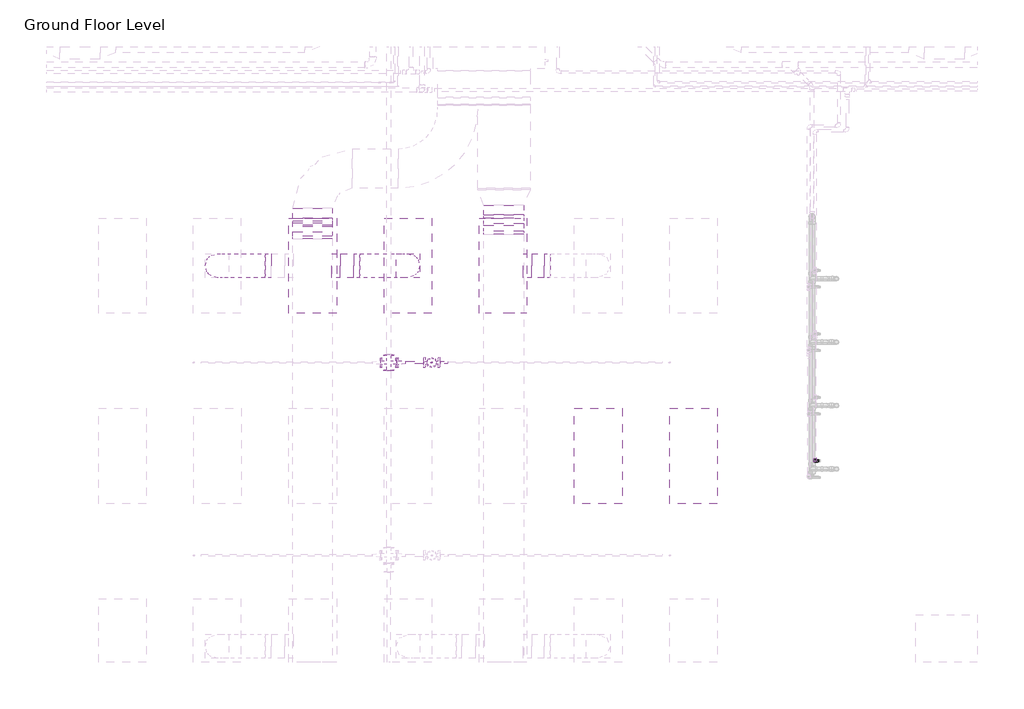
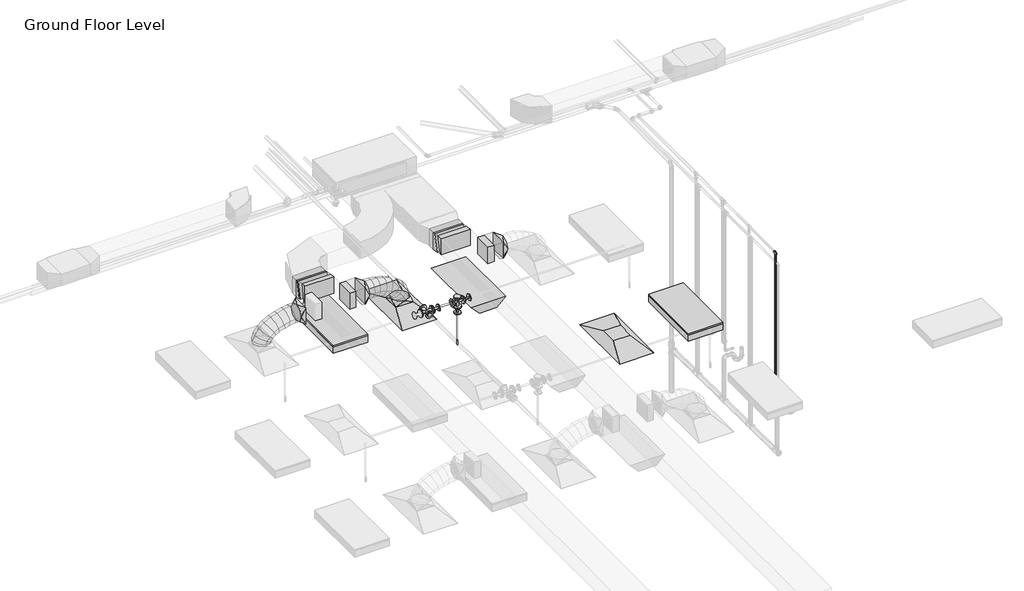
# One storey, part 49 of 74: 11 duct fittings, 8 duct segments, 7 pipe fittings, 4 pipe segments, 3 light fixtures, 2 air terminals, 1 fire suppression terminal.
"""IFC4 building model written with IfcOpenShell, lengths in millimetres."""

from ifc_helpers import new_model, si_unit, point, frame, frame_2d, origin, place, context, project, spatial, polyline, circle_curve, ellipse_curve, trimmed, segment, composite_curve, outline, extrude, transform, mapped, element, save
from ifc_brep_helpers import plane_surface, cylinder_surface, advanced_brep
from components import m_return_diffuser_1200x600_1200_x_600_face_300_x_300_d1983ef6, m_rectangular_elbow_radius_1_w_f78a0081, m_rectangular_elbow_radius_1_w_1a1d0e92, m_rectangular_takeoff_standard_cb0ccb98, m_rectangular_transition_angle_45_degree_8d40617b, m_rectangular_to_round_transition_angle_45_degree_641efff0, m_sprinkler_dry_pendent_hosted_15_mm_dry_pendent_9bda8e11, m_emergency_recessed_lighting_fixture_600x1200_277_5b10b25d, m_troffer_light_parabolic_rectangular1_0600x1200mm_4_lamp_86473d4a, m_cross_flanged_cs_class_150_standard_fc817054, m_reducer_flanged_cs_class_150_standard_ccf252ad, m_reducer_flanged_cs_class_150_standard_d42b2106, m_reducer_flanged_cs_class_150_standard_8338f9e4, m_tee_round_base_flanged_cs_class_150_standard_7e5987a1, standard_b266ab3f

model = new_model("IFC4")

# Units and contexts
model_context = context("Model", 3, world=origin())
ifc_project = project(units=[si_unit("LENGTHUNIT", "METRE", prefix="MILLI")], contexts=[model_context])

# Site, building, storey
site = spatial("IfcSite", under=ifc_project)
building = spatial("IfcBuilding", under=site)
storey = spatial("IfcBuildingStorey", under=building, Name="Ground Floor Level", Elevation=900.0)

# Air terminals
placement = place(None, origin())
m_return_diffuser_1200x600_1200_x_600_face_300_x_300_shape = m_return_diffuser_1200x600_1200_x_600_face_300_x_300_d1983ef6(model_context)
element("IfcAirTerminal", 1, ObjectType="M_Return Diffuser 1200x600 : 1200 x 600 Face 300 x 300 Connection", at=placement, inside=storey, context=model_context, shape_type="MappedRepresentation", body=[
    mapped(m_return_diffuser_1200x600_1200_x_600_face_300_x_300_shape, transform((-3337.2327605, 8835.2153534, 3650.0), x_axis=(0.0, 1.0, 0.0), y_axis=(-1.0, 0.0, 0.0), z_axis=(0.0, 0.0, 1.0))),
])
element("IfcAirTerminal", 2, ObjectType="M_Supply Diffuser 1200x600 : 1200 x 600 Face 300 x 300 Connection", at=placement, inside=storey, context=model_context, shape_type="MappedRepresentation", body=[
    mapped(m_return_diffuser_1200x600_1200_x_600_face_300_x_300_shape, transform((-5737.2327605, 11235.2153534, 3650.0), x_axis=(0.0, 1.0, 0.0), y_axis=(-1.0, 0.0, 0.0), z_axis=(0.0, 0.0, 1.0))),
])

# Duct fittings
m_rectangular_elbow_radius_1_w_shape = m_rectangular_elbow_radius_1_w_f78a0081(model_context)
element("IfcDuctFitting", 3, ObjectType="M_Rectangular Elbow - Radius : 1 W", at=placement, inside=storey, context=model_context, shape_type="MappedRepresentation", body=[
    mapped(m_rectangular_elbow_radius_1_w_shape, transform((-4528.6910789, 11671.1593756, 4149.9980527), x_axis=(0.0, 0.999999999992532, -3.864729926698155e-06), y_axis=(0.0, -3.864729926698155e-06, -0.999999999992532), z_axis=(-1.0, 0.0, 0.0))),
])
element("IfcDuctFitting", 4, ObjectType="M_Rectangular Elbow - Radius : 1 W", at=placement, inside=storey, context=model_context, shape_type="MappedRepresentation", body=[
    mapped(m_rectangular_elbow_radius_1_w_shape, transform((-4528.6910789, 11835.9032855, 4107.134916), x_axis=(0.0, -0.999999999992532, 3.864729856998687e-06), y_axis=(0.0, 3.864729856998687e-06, 0.999999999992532), z_axis=(-1.0, 0.0, 0.0))),
])
m_rectangular_elbow_radius_1_w_2_shape = m_rectangular_elbow_radius_1_w_1a1d0e92(model_context)
element("IfcDuctFitting", 5, ObjectType="M_Rectangular Elbow - Radius : 1 W", at=placement, inside=storey, context=model_context, shape_type="MappedRepresentation", body=[
    mapped(m_rectangular_elbow_radius_1_w_2_shape, transform((-6939.6910789, 11605.2153534, 4150.0), x_axis=(0.0, 1.0, 0.0), y_axis=(-4.8368849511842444e-06, 0.0, -0.9999999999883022), z_axis=(-0.9999999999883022, 0.0, 4.8368849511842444e-06))),
])
element("IfcDuctFitting", 6, ObjectType="M_Rectangular Elbow - Radius : 1 W", at=placement, inside=storey, context=model_context, shape_type="MappedRepresentation", body=[
    mapped(m_rectangular_elbow_radius_1_w_2_shape, transform((-6939.6912607, 11801.8710367, 4107.1399598), x_axis=(0.0, -1.0, 0.0), y_axis=(4.836885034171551e-06, 0.0, 0.9999999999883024), z_axis=(-0.9999999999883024, 0.0, 4.836885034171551e-06))),
])
m_rectangular_takeoff_standard_shape = m_rectangular_takeoff_standard_cb0ccb98(model_context)
element("IfcDuctFitting", 7, ObjectType="M_Rectangular Takeoff : Standard", at=placement, inside=storey, context=model_context, shape_type="MappedRepresentation", body=[
    mapped(m_rectangular_takeoff_standard_shape, transform((-4278.6910789, 11235.2153534, 4150.0), x_axis=(1.0, 0.0, 0.0), y_axis=(0.0, -1.0, 0.0), z_axis=(0.0, 0.0, -1.0))),
])
element("IfcDuctFitting", 8, ObjectType="M_Rectangular Takeoff : Standard", at=placement, inside=storey, context=model_context, shape_type="MappedRepresentation", body=[
    mapped(m_rectangular_takeoff_standard_shape, transform((-6689.6910789, 11235.2153534, 4150.0), x_axis=(1.0, 0.0, 0.0), y_axis=(0.0, -1.0, 0.0), z_axis=(0.0, 0.0, -1.0))),
])
m_rectangular_transition_angle_45_degree_shape = m_rectangular_transition_angle_45_degree_8d40617b(model_context)
element("IfcDuctFitting", 9, ObjectType="M_Rectangular Transition - Angle : 45 Degree", at=placement, inside=storey, context=model_context, shape_type="MappedRepresentation", body=[
    mapped(m_rectangular_transition_angle_45_degree_shape, transform((-6939.6912351, 11774.1025359, 4112.4195134), x_axis=(9.034404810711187e-07, -0.9824014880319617, 0.18678146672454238), y_axis=(0.9999999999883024, 0.0, -4.836885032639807e-06), z_axis=(4.751763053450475e-06, 0.1867814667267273, 0.9824014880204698))),
])
m_rectangular_to_round_transition_angle_45_degree_shape = m_rectangular_to_round_transition_angle_45_degree_641efff0(model_context)
element("IfcDuctFitting", 10, ObjectType="M_Rectangular to Round Transition - Angle : 45 Degree", at=placement, inside=storey, context=model_context, shape_type="MappedRepresentation", body=[
    mapped(m_rectangular_to_round_transition_angle_45_degree_shape, transform((-7461.2487616, 11235.2153534, 4150.0), x_axis=(-1.0, 0.0, 0.0), y_axis=(0.0, -1.0, 0.0), z_axis=(0.0, 0.0, 1.0))),
])
element("IfcDuctFitting", 11, ObjectType="M_Rectangular to Round Transition - Angle : 45 Degree", at=placement, inside=storey, context=model_context, shape_type="MappedRepresentation", body=[
    mapped(m_rectangular_to_round_transition_angle_45_degree_shape, transform((-5737.2327605, 11235.2153534, 3751.6), x_axis=(0.0, 0.0, 1.0), y_axis=(-1.0, 0.0, 0.0), z_axis=(0.0, -1.0, 0.0))),
])
element("IfcDuctFitting", 12, ObjectType="M_Rectangular to Round Transition - Angle : 45 Degree", at=placement, inside=storey, context=model_context, shape_type="MappedRepresentation", body=[
    mapped(m_rectangular_to_round_transition_angle_45_degree_shape, transform((-6418.6686918, 11235.2153534, 4150.0), x_axis=(1.0, 0.0, 0.0), y_axis=(0.0, 1.0, 0.0), z_axis=(0.0, 0.0, 1.0))),
])
element("IfcDuctFitting", 13, ObjectType="M_Rectangular to Round Transition - Angle : 45 Degree", at=placement, inside=storey, context=model_context, shape_type="MappedRepresentation", body=[
    mapped(m_rectangular_to_round_transition_angle_45_degree_shape, transform((-4018.6725245, 11235.2153534, 4150.0), x_axis=(1.0, 0.0, 0.0), y_axis=(0.0, 1.0, 0.0), z_axis=(0.0, 0.0, 1.0))),
])

# Duct segments
element("IfcDuctSegment", 14, ObjectType="Flex - Round", at=placement, inside=storey, context=model_context, shape_type="AdvancedBrep", body=[
    advanced_brep(
    [(-7992.6846929, 11235.2153534, 3826.6), (-8142.6846929, 11085.2153534, 3826.6), (-8292.6846929, 11235.2153534, 3826.6), (-8142.6846929, 11385.2153534, 3826.6), (-7992.6846929, 11235.2153534, 3832.4838104), (-8142.6846929, 11085.2153534, 3857.3049615), (-8292.6846929, 11235.2153534, 3882.1261126), (-8142.6846929, 11385.2153534, 3857.3049615), (-7990.555208, 11235.2153534, 3838.7421096), (-8126.0232883, 11085.2153534, 3906.2708192), (-8261.4913687, 11235.2153534, 3973.7995287), (-8126.0232883, 11385.2153534, 3906.2708192), (-7968.5331802, 11235.2153534, 3871.1472855), (-8080.1452707, 11085.2153534, 3973.7798261), (-8191.7573612, 11235.2153534, 4076.4123668), (-8080.1452707, 11385.2153534, 3973.7798261), (-7928.5904556, 11235.2153534, 3903.4915826), (-8011.2099341, 11085.2153534, 4029.6013814), (-8093.8294126, 11235.2153534, 4155.7111802), (-8011.2099341, 11385.2153534, 4029.6013814), (-7865.6682729, 11235.2153534, 3936.1928758), (-7925.3765727, 11085.2153534, 4074.2098454), (-7985.0848725, 11235.2153534, 4212.226815), (-7925.3765727, 11385.2153534, 4074.2098454), (-7786.815881, 11235.2153534, 3963.8479616), (-7828.8044806, 11085.2153534, 4108.0795788), (-7870.7930803, 11235.2153534, 4252.311196), (-7828.8044806, 11385.2153534, 4108.0795788), (-7700.2438983, 11235.2153534, 3984.0509494), (-7727.652952, 11085.2153534, 4131.684942), (-7755.0620057, 11235.2153534, 4279.3189347), (-7727.652952, 11385.2153534, 4131.684942), (-7613.759715, 11235.2153534, 3996.0504424), (-7628.081281, 11085.2153534, 4145.5002956), (-7642.4028469, 11235.2153534, 4294.9501488), (-7628.081281, 11385.2153534, 4145.5002956), (-7539.5984134, 11235.2153534, 4000.0), (-7543.5898089, 11085.2153534, 4150.0), (-7547.5812043, 11235.2153534, 4300.0), (-7543.5898089, 11385.2153534, 4150.0), (-7536.2487616, 11235.2153534, 4000.0), (-7536.2487616, 11385.2153534, 4150.0), (-7536.2487616, 11235.2153534, 4300.0), (-7536.2487616, 11085.2153534, 4150.0)],
    [
        (0, 1, circle_curve(frame((-8142.6846929, 11235.2153534, 3826.6), z_axis=(0.0, 0.0, -1.0), x_axis=(1.0, 0.0, 0.0)), 150.0)),
        (1, 2, circle_curve(frame((-8142.6846929, 11235.2153534, 3826.6), z_axis=(0.0, 0.0, -1.0), x_axis=(1.0, 0.0, 0.0)), 150.0)),
        (2, 3, circle_curve(frame((-8142.6846929, 11235.2153534, 3826.6), z_axis=(0.0, 0.0, -1.0), x_axis=(1.0, 0.0, 0.0)), 150.0)),
        (3, 0, circle_curve(frame((-8142.6846929, 11235.2153534, 3826.6), z_axis=(0.0, 0.0, -1.0), x_axis=(1.0, 0.0, 0.0)), 150.0)),
        (0, 4),
        (4, 5, ellipse_curve(frame((-8142.6846929, 11235.2153534, 3857.3049615), z_axis=(-0.1632543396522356, 0.0, -0.9865840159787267), x_axis=(0.9865840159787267, 0.0, -0.16325433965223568)), 152.039763, 150.0)),
        (5, 1),
        (5, 6, ellipse_curve(frame((-8142.6846929, 11235.2153534, 3857.3049615), z_axis=(-0.1632543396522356, 0.0, -0.9865840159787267), x_axis=(0.9865840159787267, 0.0, -0.16325433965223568)), 152.039763, 150.0)),
        (6, 2),
        (6, 7, ellipse_curve(frame((-8142.6846929, 11235.2153534, 3857.3049615), z_axis=(-0.1632543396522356, 0.0, -0.9865840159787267), x_axis=(0.9865840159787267, 0.0, -0.16325433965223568)), 152.039763, 150.0)),
        (7, 3),
        (7, 4, ellipse_curve(frame((-8142.6846929, 11235.2153534, 3857.3049615), z_axis=(-0.1632543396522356, 0.0, -0.9865840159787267), x_axis=(0.9865840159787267, 0.0, -0.16325433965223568)), 152.039763, 150.0)),
        (4, 8),
        (8, 9, ellipse_curve(frame((-8126.0232883, 11235.2153534, 3906.2708192), z_axis=(-0.4461280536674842, 0.0, -0.8949691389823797), x_axis=(0.8949691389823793, 0.0, -0.4461280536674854)), 151.366203, 150.0)),
        (9, 5),
        (9, 10, ellipse_curve(frame((-8126.0232883, 11235.2153534, 3906.2708192), z_axis=(-0.4461280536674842, 0.0, -0.8949691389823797), x_axis=(0.8949691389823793, 0.0, -0.4461280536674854)), 151.366203, 150.0)),
        (10, 6),
        (10, 11, ellipse_curve(frame((-8126.0232883, 11235.2153534, 3906.2708192), z_axis=(-0.4461280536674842, 0.0, -0.8949691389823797), x_axis=(0.8949691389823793, 0.0, -0.4461280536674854)), 151.366203, 150.0)),
        (11, 7),
        (11, 8, ellipse_curve(frame((-8126.0232883, 11235.2153534, 3906.2708192), z_axis=(-0.4461280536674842, 0.0, -0.8949691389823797), x_axis=(0.8949691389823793, 0.0, -0.4461280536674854)), 151.366203, 150.0)),
        (8, 12),
        (12, 13, ellipse_curve(frame((-8080.1452707, 11235.2153534, 3973.7798261), z_axis=(-0.676875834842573, 0.0, -0.7360972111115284), x_axis=(0.7360972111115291, 0.0, -0.6768758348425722)), 151.6268352, 150.0)),
        (13, 9),
        (13, 14, ellipse_curve(frame((-8080.1452707, 11235.2153534, 3973.7798261), z_axis=(-0.676875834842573, 0.0, -0.7360972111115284), x_axis=(0.7360972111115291, 0.0, -0.6768758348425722)), 151.6268352, 150.0)),
        (14, 10),
        (14, 15, ellipse_curve(frame((-8080.1452707, 11235.2153534, 3973.7798261), z_axis=(-0.676875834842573, 0.0, -0.7360972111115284), x_axis=(0.7360972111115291, 0.0, -0.6768758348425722)), 151.6268352, 150.0)),
        (15, 11),
        (15, 12, ellipse_curve(frame((-8080.1452707, 11235.2153534, 3973.7798261), z_axis=(-0.676875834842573, 0.0, -0.7360972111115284), x_axis=(0.7360972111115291, 0.0, -0.6768758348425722)), 151.6268352, 150.0)),
        (12, 16),
        (16, 17, ellipse_curve(frame((-8011.2099341, 11235.2153534, 4029.6013814), z_axis=(-0.8364738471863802, 0.0, -0.5480068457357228), x_axis=(0.5480068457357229, 0.0, -0.8364738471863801)), 150.7635884, 150.0)),
        (17, 13),
        (17, 18, ellipse_curve(frame((-8011.2099341, 11235.2153534, 4029.6013814), z_axis=(-0.8364738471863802, 0.0, -0.5480068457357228), x_axis=(0.5480068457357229, 0.0, -0.8364738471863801)), 150.7635884, 150.0)),
        (18, 14),
        (18, 19, ellipse_curve(frame((-8011.2099341, 11235.2153534, 4029.6013814), z_axis=(-0.8364738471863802, 0.0, -0.5480068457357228), x_axis=(0.5480068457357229, 0.0, -0.8364738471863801)), 150.7635884, 150.0)),
        (19, 15),
        (19, 16, ellipse_curve(frame((-8011.2099341, 11235.2153534, 4029.6013814), z_axis=(-0.8364738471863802, 0.0, -0.5480068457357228), x_axis=(0.5480068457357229, 0.0, -0.8364738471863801)), 150.7635884, 150.0)),
        (16, 20),
        (20, 21, ellipse_curve(frame((-7925.3765727, 11235.2153534, 4074.2098454), z_axis=(-0.917795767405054, 0.0, -0.3970528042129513), x_axis=(0.3970528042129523, 0.0, -0.9177957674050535)), 150.3787384, 150.0)),
        (21, 17),
        (21, 22, ellipse_curve(frame((-7925.3765727, 11235.2153534, 4074.2098454), z_axis=(-0.917795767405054, 0.0, -0.3970528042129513), x_axis=(0.3970528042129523, 0.0, -0.9177957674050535)), 150.3787384, 150.0)),
        (22, 18),
        (22, 23, ellipse_curve(frame((-7925.3765727, 11235.2153534, 4074.2098454), z_axis=(-0.917795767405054, 0.0, -0.3970528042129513), x_axis=(0.3970528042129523, 0.0, -0.9177957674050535)), 150.3787384, 150.0)),
        (23, 19),
        (23, 20, ellipse_curve(frame((-7925.3765727, 11235.2153534, 4074.2098454), z_axis=(-0.917795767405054, 0.0, -0.3970528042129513), x_axis=(0.3970528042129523, 0.0, -0.9177957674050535)), 150.3787384, 150.0)),
        (20, 24),
        (24, 25, ellipse_curve(frame((-7828.8044806, 11235.2153534, 4108.0795788), z_axis=(-0.9601411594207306, 0.0, -0.2795155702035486), x_axis=(0.27951557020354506, 0.0, -0.9601411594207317)), 150.2191795, 150.0)),
        (25, 21),
        (25, 26, ellipse_curve(frame((-7828.8044806, 11235.2153534, 4108.0795788), z_axis=(-0.9601411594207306, 0.0, -0.2795155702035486), x_axis=(0.27951557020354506, 0.0, -0.9601411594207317)), 150.2191795, 150.0)),
        (26, 22),
        (26, 27, ellipse_curve(frame((-7828.8044806, 11235.2153534, 4108.0795788), z_axis=(-0.9601411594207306, 0.0, -0.2795155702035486), x_axis=(0.27951557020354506, 0.0, -0.9601411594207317)), 150.2191795, 150.0)),
        (27, 23),
        (27, 24, ellipse_curve(frame((-7828.8044806, 11235.2153534, 4108.0795788), z_axis=(-0.9601411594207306, 0.0, -0.2795155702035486), x_axis=(0.27951557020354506, 0.0, -0.9601411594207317)), 150.2191795, 150.0)),
        (24, 28),
        (28, 29, ellipse_curve(frame((-7727.652952, 11235.2153534, 4131.684942), z_axis=(-0.9831991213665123, 0.0, -0.1825362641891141), x_axis=(0.18253626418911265, 0.0, -0.9831991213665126)), 150.1567581, 150.0)),
        (29, 25),
        (29, 30, ellipse_curve(frame((-7727.652952, 11235.2153534, 4131.684942), z_axis=(-0.9831991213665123, 0.0, -0.1825362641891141), x_axis=(0.18253626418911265, 0.0, -0.9831991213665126)), 150.1567581, 150.0)),
        (30, 26),
        (30, 31, ellipse_curve(frame((-7727.652952, 11235.2153534, 4131.684942), z_axis=(-0.9831991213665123, 0.0, -0.1825362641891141), x_axis=(0.18253626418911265, 0.0, -0.9831991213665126)), 150.1567581, 150.0)),
        (31, 27),
        (31, 28, ellipse_curve(frame((-7727.652952, 11235.2153534, 4131.684942), z_axis=(-0.9831991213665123, 0.0, -0.1825362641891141), x_axis=(0.18253626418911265, 0.0, -0.9831991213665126)), 150.1567581, 150.0)),
        (28, 32),
        (32, 33, ellipse_curve(frame((-7628.081281, 11235.2153534, 4145.5002956), z_axis=(-0.9954398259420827, 0.0, -0.09539157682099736), x_axis=(0.09539157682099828, 0.0, -0.9954398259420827)), 150.1344926, 150.0)),
        (33, 29),
        (33, 34, ellipse_curve(frame((-7628.081281, 11235.2153534, 4145.5002956), z_axis=(-0.9954398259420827, 0.0, -0.09539157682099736), x_axis=(0.09539157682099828, 0.0, -0.9954398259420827)), 150.1344926, 150.0)),
        (34, 30),
        (34, 35, ellipse_curve(frame((-7628.081281, 11235.2153534, 4145.5002956), z_axis=(-0.9954398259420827, 0.0, -0.09539157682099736), x_axis=(0.09539157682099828, 0.0, -0.9954398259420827)), 150.1344926, 150.0)),
        (35, 31),
        (35, 32, ellipse_curve(frame((-7628.081281, 11235.2153534, 4145.5002956), z_axis=(-0.9954398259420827, 0.0, -0.09539157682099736), x_axis=(0.09539157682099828, 0.0, -0.9954398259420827)), 150.1344926, 150.0)),
        (32, 36),
        (36, 37, ellipse_curve(frame((-7543.5898089, 11235.2153534, 4150.0), z_axis=(-0.9996461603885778, 0.0, -0.026599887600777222), x_axis=(0.026599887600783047, 0.0, -0.9996461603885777)), 150.0530947, 150.0)),
        (37, 33),
        (37, 38, ellipse_curve(frame((-7543.5898089, 11235.2153534, 4150.0), z_axis=(-0.9996461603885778, 0.0, -0.026599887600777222), x_axis=(0.026599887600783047, 0.0, -0.9996461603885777)), 150.0530947, 150.0)),
        (38, 34),
        (38, 39, ellipse_curve(frame((-7543.5898089, 11235.2153534, 4150.0), z_axis=(-0.9996461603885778, 0.0, -0.026599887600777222), x_axis=(0.026599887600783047, 0.0, -0.9996461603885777)), 150.0530947, 150.0)),
        (39, 35),
        (39, 36, ellipse_curve(frame((-7543.5898089, 11235.2153534, 4150.0), z_axis=(-0.9996461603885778, 0.0, -0.026599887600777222), x_axis=(0.026599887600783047, 0.0, -0.9996461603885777)), 150.0530947, 150.0)),
        (40, 41, circle_curve(frame((-7536.2487616, 11235.2153534, 4150.0), z_axis=(1.0, 0.0, 0.0), x_axis=(0.0, 0.0, -1.0)), 150.0)),
        (41, 42, circle_curve(frame((-7536.2487616, 11235.2153534, 4150.0), z_axis=(1.0, 0.0, 0.0), x_axis=(0.0, 0.0, -1.0)), 150.0)),
        (42, 43, circle_curve(frame((-7536.2487616, 11235.2153534, 4150.0), z_axis=(1.0, 0.0, 0.0), x_axis=(0.0, 0.0, -1.0)), 150.0)),
        (43, 40, circle_curve(frame((-7536.2487616, 11235.2153534, 4150.0), z_axis=(1.0, 0.0, 0.0), x_axis=(0.0, 0.0, -1.0)), 150.0)),
        (36, 40),
        (43, 37),
        (42, 38),
        (41, 39),
    ],
    [
        plane_surface(frame((-8142.6846929, 11085.2153534, 3826.6), z_axis=(0.0, 0.0, -1.0), x_axis=(1.0, 0.0, 0.0))),
        cylinder_surface(frame((-8142.6846929, 11235.2153534, 3826.6), z_axis=(0.0, 0.0, -1.0), x_axis=(1.0, 0.0, 0.0)), 150.0),
        cylinder_surface(frame((-8142.6846929, 11235.2153534, 3857.3049615), z_axis=(-0.32212824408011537, 0.0, -0.946696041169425), x_axis=(0.946696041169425, 0.0, -0.32212824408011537)), 150.0),
        cylinder_surface(frame((-8126.0232883, 11235.2153534, 3906.2708192), z_axis=(-0.5620745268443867, 0.0, -0.8270865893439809), x_axis=(0.8270865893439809, 0.0, -0.5620745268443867)), 150.0),
        cylinder_surface(frame((-8080.1452707, 11235.2153534, 3973.7798261), z_axis=(-0.777152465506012, 0.0, -0.6293123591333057), x_axis=(0.6293123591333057, 0.0, -0.777152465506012)), 150.0),
        cylinder_surface(frame((-8011.2099341, 11235.2153534, 4029.6013814), z_axis=(-0.887322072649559, 0.0, -0.4611502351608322), x_axis=(0.4611502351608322, 0.0, -0.887322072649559)), 150.0),
        cylinder_surface(frame((-7925.3765727, 11235.2153534, 4074.2098454), z_axis=(-0.9436464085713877, 0.0, -0.3309553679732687), x_axis=(0.3309553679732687, 0.0, -0.9436464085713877)), 150.0),
        cylinder_surface(frame((-7828.8044806, 11235.2153534, 4108.0795788), z_axis=(-0.9738340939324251, 0.0, -0.2272601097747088), x_axis=(0.2272601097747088, 0.0, -0.9738340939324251)), 150.0),
        cylinder_surface(frame((-7727.652952, 11235.2153534, 4131.684942), z_axis=(-0.9905113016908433, 0.0, -0.1374312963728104), x_axis=(0.1374312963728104, 0.0, -0.9905113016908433)), 150.0),
        cylinder_surface(frame((-7628.081281, 11235.2153534, 4145.5002956), z_axis=(-0.998584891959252, 0.0, -0.05318095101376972), x_axis=(0.05318095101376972, 0.0, -0.998584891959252)), 150.0),
        plane_surface(frame((-7536.2487616, 11235.2153534, 4000.0), z_axis=(1.0, 0.0, 0.0), x_axis=(0.0, 1.0, 0.0))),
        cylinder_surface(frame((-7543.5898089, 11235.2153534, 4150.0), z_axis=(-1.0, 0.0, 0.0), x_axis=(0.0, 0.0, -1.0)), 150.0),
    ],
    [
        (0, [[1, 2, 3, 4]]),
        (1, [[-1, 5, 6, 7]]),
        (1, [[-2, -7, 8, 9]]),
        (1, [[-3, -9, 10, 11]]),
        (1, [[-4, -11, 12, -5]]),
        (2, [[-6, 13, 14, 15]]),
        (2, [[-8, -15, 16, 17]]),
        (2, [[-10, -17, 18, 19]]),
        (2, [[-12, -19, 20, -13]]),
        (3, [[-14, 21, 22, 23]]),
        (3, [[-16, -23, 24, 25]]),
        (3, [[-18, -25, 26, 27]]),
        (3, [[-20, -27, 28, -21]]),
        (4, [[-22, 29, 30, 31]]),
        (4, [[-24, -31, 32, 33]]),
        (4, [[-26, -33, 34, 35]]),
        (4, [[-28, -35, 36, -29]]),
        (5, [[-30, 37, 38, 39]]),
        (5, [[-32, -39, 40, 41]]),
        (5, [[-34, -41, 42, 43]]),
        (5, [[-36, -43, 44, -37]]),
        (6, [[-38, 45, 46, 47]]),
        (6, [[-40, -47, 48, 49]]),
        (6, [[-42, -49, 50, 51]]),
        (6, [[-44, -51, 52, -45]]),
        (7, [[-46, 53, 54, 55]]),
        (7, [[-48, -55, 56, 57]]),
        (7, [[-50, -57, 58, 59]]),
        (7, [[-52, -59, 60, -53]]),
        (8, [[-54, 61, 62, 63]]),
        (8, [[-56, -63, 64, 65]]),
        (8, [[-58, -65, 66, 67]]),
        (8, [[-60, -67, 68, -61]]),
        (9, [[-62, 69, 70, 71]]),
        (9, [[-64, -71, 72, 73]]),
        (9, [[-66, -73, 74, 75]]),
        (9, [[-68, -75, 76, -69]]),
        (10, [[77, 78, 79, 80]]),
        (11, [[-70, 81, -80, 82]]),
        (11, [[-72, -82, -79, 83]]),
        (11, [[-74, -83, -78, 84]]),
        (11, [[-76, -84, -77, -81]]),
    ],
),
])
element("IfcDuctSegment", 15, ObjectType="Flex - Round", at=placement, inside=storey, context=model_context, shape_type="AdvancedBrep", body=[
    advanced_brep(
    [(-5587.2327605, 11235.2153534, 3826.6), (-5737.2327605, 11085.2153534, 3826.6), (-5887.2327605, 11235.2153534, 3826.6), (-5737.2327605, 11385.2153534, 3826.6), (-5587.2327605, 11235.2153534, 3882.1261126), (-5737.2327605, 11085.2153534, 3857.3049615), (-5887.2327605, 11235.2153534, 3832.4838104), (-5737.2327605, 11385.2153534, 3857.3049615), (-5618.4260847, 11235.2153534, 3973.7995287), (-5753.8941651, 11085.2153534, 3906.2708192), (-5889.3622454, 11235.2153534, 3838.7421096), (-5753.8941651, 11385.2153534, 3906.2708192), (-5688.1600922, 11235.2153534, 4076.4123668), (-5799.7721827, 11085.2153534, 3973.7798261), (-5911.3842733, 11235.2153534, 3871.1472855), (-5799.7721827, 11385.2153534, 3973.7798261), (-5786.0880408, 11235.2153534, 4155.7111802), (-5868.7075193, 11085.2153534, 4029.6013814), (-5951.3269979, 11235.2153534, 3903.4915826), (-5868.7075193, 11385.2153534, 4029.6013814), (-5894.832581, 11235.2153534, 4212.226815), (-5954.5408807, 11085.2153534, 4074.2098454), (-6014.2491805, 11235.2153534, 3936.1928758), (-5954.5408807, 11385.2153534, 4074.2098454), (-6009.1243732, 11235.2153534, 4252.311196), (-6051.1129728, 11085.2153534, 4108.0795788), (-6093.1015724, 11235.2153534, 3963.8479616), (-6051.1129728, 11385.2153534, 4108.0795788), (-6124.8554478, 11235.2153534, 4279.3189347), (-6152.2645014, 11085.2153534, 4131.684942), (-6179.6735551, 11235.2153534, 3984.0509494), (-6152.2645014, 11385.2153534, 4131.684942), (-6237.5146065, 11235.2153534, 4294.9501488), (-6251.8361725, 11085.2153534, 4145.5002956), (-6266.1577385, 11235.2153534, 3996.0504424), (-6251.8361725, 11385.2153534, 4145.5002956), (-6332.3362491, 11235.2153534, 4300.0), (-6336.3276445, 11085.2153534, 4150.0), (-6340.31904, 11235.2153534, 4000.0), (-6336.3276445, 11385.2153534, 4150.0), (-6343.6686918, 11235.2153534, 4300.0), (-6343.6686918, 11385.2153534, 4150.0), (-6343.6686918, 11235.2153534, 4000.0), (-6343.6686918, 11085.2153534, 4150.0)],
    [
        (0, 1, circle_curve(frame((-5737.2327605, 11235.2153534, 3826.6), z_axis=(0.0, 0.0, -1.0), x_axis=(1.0, 0.0, 0.0)), 150.0)),
        (1, 2, circle_curve(frame((-5737.2327605, 11235.2153534, 3826.6), z_axis=(0.0, 0.0, -1.0), x_axis=(1.0, 0.0, 0.0)), 150.0)),
        (2, 3, circle_curve(frame((-5737.2327605, 11235.2153534, 3826.6), z_axis=(0.0, 0.0, -1.0), x_axis=(1.0, 0.0, 0.0)), 150.0)),
        (3, 0, circle_curve(frame((-5737.2327605, 11235.2153534, 3826.6), z_axis=(0.0, 0.0, -1.0), x_axis=(1.0, 0.0, 0.0)), 150.0)),
        (0, 4),
        (4, 5, ellipse_curve(frame((-5737.2327605, 11235.2153534, 3857.3049615), z_axis=(0.1632543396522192, 0.0, -0.9865840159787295), x_axis=(-0.9865840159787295, 0.0, -0.16325433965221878)), 152.039763, 150.0)),
        (5, 1),
        (5, 6, ellipse_curve(frame((-5737.2327605, 11235.2153534, 3857.3049615), z_axis=(0.1632543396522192, 0.0, -0.9865840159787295), x_axis=(-0.9865840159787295, 0.0, -0.16325433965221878)), 152.039763, 150.0)),
        (6, 2),
        (6, 7, ellipse_curve(frame((-5737.2327605, 11235.2153534, 3857.3049615), z_axis=(0.1632543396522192, 0.0, -0.9865840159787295), x_axis=(-0.9865840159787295, 0.0, -0.16325433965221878)), 152.039763, 150.0)),
        (7, 3),
        (7, 4, ellipse_curve(frame((-5737.2327605, 11235.2153534, 3857.3049615), z_axis=(0.1632543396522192, 0.0, -0.9865840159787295), x_axis=(-0.9865840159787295, 0.0, -0.16325433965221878)), 152.039763, 150.0)),
        (4, 8),
        (8, 9, ellipse_curve(frame((-5753.8941651, 11235.2153534, 3906.2708192), z_axis=(0.44612805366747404, 0.0, -0.8949691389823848), x_axis=(-0.8949691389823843, 0.0, -0.44612805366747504)), 151.366203, 150.0)),
        (9, 5),
        (9, 10, ellipse_curve(frame((-5753.8941651, 11235.2153534, 3906.2708192), z_axis=(0.44612805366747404, 0.0, -0.8949691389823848), x_axis=(-0.8949691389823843, 0.0, -0.44612805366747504)), 151.366203, 150.0)),
        (10, 6),
        (10, 11, ellipse_curve(frame((-5753.8941651, 11235.2153534, 3906.2708192), z_axis=(0.44612805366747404, 0.0, -0.8949691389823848), x_axis=(-0.8949691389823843, 0.0, -0.44612805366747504)), 151.366203, 150.0)),
        (11, 7),
        (11, 8, ellipse_curve(frame((-5753.8941651, 11235.2153534, 3906.2708192), z_axis=(0.44612805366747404, 0.0, -0.8949691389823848), x_axis=(-0.8949691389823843, 0.0, -0.44612805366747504)), 151.366203, 150.0)),
        (8, 12),
        (12, 13, ellipse_curve(frame((-5799.7721827, 11235.2153534, 3973.7798261), z_axis=(0.6768758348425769, 0.0, -0.7360972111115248), x_axis=(-0.7360972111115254, 0.0, -0.6768758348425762)), 151.6268352, 150.0)),
        (13, 9),
        (13, 14, ellipse_curve(frame((-5799.7721827, 11235.2153534, 3973.7798261), z_axis=(0.6768758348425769, 0.0, -0.7360972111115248), x_axis=(-0.7360972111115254, 0.0, -0.6768758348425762)), 151.6268352, 150.0)),
        (14, 10),
        (14, 15, ellipse_curve(frame((-5799.7721827, 11235.2153534, 3973.7798261), z_axis=(0.6768758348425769, 0.0, -0.7360972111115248), x_axis=(-0.7360972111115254, 0.0, -0.6768758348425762)), 151.6268352, 150.0)),
        (15, 11),
        (15, 12, ellipse_curve(frame((-5799.7721827, 11235.2153534, 3973.7798261), z_axis=(0.6768758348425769, 0.0, -0.7360972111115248), x_axis=(-0.7360972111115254, 0.0, -0.6768758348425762)), 151.6268352, 150.0)),
        (12, 16),
        (16, 17, ellipse_curve(frame((-5868.7075193, 11235.2153534, 4029.6013814), z_axis=(0.8364738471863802, 0.0, -0.5480068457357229), x_axis=(-0.5480068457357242, 0.0, -0.8364738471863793)), 150.7635884, 150.0)),
        (17, 13),
        (17, 18, ellipse_curve(frame((-5868.7075193, 11235.2153534, 4029.6013814), z_axis=(0.8364738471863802, 0.0, -0.5480068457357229), x_axis=(-0.5480068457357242, 0.0, -0.8364738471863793)), 150.7635884, 150.0)),
        (18, 14),
        (18, 19, ellipse_curve(frame((-5868.7075193, 11235.2153534, 4029.6013814), z_axis=(0.8364738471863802, 0.0, -0.5480068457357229), x_axis=(-0.5480068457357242, 0.0, -0.8364738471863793)), 150.7635884, 150.0)),
        (19, 15),
        (19, 16, ellipse_curve(frame((-5868.7075193, 11235.2153534, 4029.6013814), z_axis=(0.8364738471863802, 0.0, -0.5480068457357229), x_axis=(-0.5480068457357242, 0.0, -0.8364738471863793)), 150.7635884, 150.0)),
        (16, 20),
        (20, 21, ellipse_curve(frame((-5954.5408807, 11235.2153534, 4074.2098454), z_axis=(0.9177957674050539, 0.0, -0.39705280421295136), x_axis=(-0.39705280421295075, 0.0, -0.9177957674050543)), 150.3787384, 150.0)),
        (21, 17),
        (21, 22, ellipse_curve(frame((-5954.5408807, 11235.2153534, 4074.2098454), z_axis=(0.9177957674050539, 0.0, -0.39705280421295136), x_axis=(-0.39705280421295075, 0.0, -0.9177957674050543)), 150.3787384, 150.0)),
        (22, 18),
        (22, 23, ellipse_curve(frame((-5954.5408807, 11235.2153534, 4074.2098454), z_axis=(0.9177957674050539, 0.0, -0.39705280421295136), x_axis=(-0.39705280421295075, 0.0, -0.9177957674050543)), 150.3787384, 150.0)),
        (23, 19),
        (23, 20, ellipse_curve(frame((-5954.5408807, 11235.2153534, 4074.2098454), z_axis=(0.9177957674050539, 0.0, -0.39705280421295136), x_axis=(-0.39705280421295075, 0.0, -0.9177957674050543)), 150.3787384, 150.0)),
        (20, 24),
        (24, 25, ellipse_curve(frame((-6051.1129728, 11235.2153534, 4108.0795788), z_axis=(0.9601411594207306, 0.0, -0.2795155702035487), x_axis=(-0.27951557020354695, 0.0, -0.9601411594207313)), 150.2191795, 150.0)),
        (25, 21),
        (25, 26, ellipse_curve(frame((-6051.1129728, 11235.2153534, 4108.0795788), z_axis=(0.9601411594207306, 0.0, -0.2795155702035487), x_axis=(-0.27951557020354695, 0.0, -0.9601411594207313)), 150.2191795, 150.0)),
        (26, 22),
        (26, 27, ellipse_curve(frame((-6051.1129728, 11235.2153534, 4108.0795788), z_axis=(0.9601411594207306, 0.0, -0.2795155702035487), x_axis=(-0.27951557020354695, 0.0, -0.9601411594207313)), 150.2191795, 150.0)),
        (27, 23),
        (27, 24, ellipse_curve(frame((-6051.1129728, 11235.2153534, 4108.0795788), z_axis=(0.9601411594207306, 0.0, -0.2795155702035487), x_axis=(-0.27951557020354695, 0.0, -0.9601411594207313)), 150.2191795, 150.0)),
        (24, 28),
        (28, 29, ellipse_curve(frame((-6152.2645014, 11235.2153534, 4131.684942), z_axis=(0.9831991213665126, 0.0, -0.1825362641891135), x_axis=(-0.1825362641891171, 0.0, -0.9831991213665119)), 150.1567581, 150.0)),
        (29, 25),
        (29, 30, ellipse_curve(frame((-6152.2645014, 11235.2153534, 4131.684942), z_axis=(0.9831991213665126, 0.0, -0.1825362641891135), x_axis=(-0.1825362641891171, 0.0, -0.9831991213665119)), 150.1567581, 150.0)),
        (30, 26),
        (30, 31, ellipse_curve(frame((-6152.2645014, 11235.2153534, 4131.684942), z_axis=(0.9831991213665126, 0.0, -0.1825362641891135), x_axis=(-0.1825362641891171, 0.0, -0.9831991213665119)), 150.1567581, 150.0)),
        (31, 27),
        (31, 28, ellipse_curve(frame((-6152.2645014, 11235.2153534, 4131.684942), z_axis=(0.9831991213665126, 0.0, -0.1825362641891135), x_axis=(-0.1825362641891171, 0.0, -0.9831991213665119)), 150.1567581, 150.0)),
        (28, 32),
        (32, 33, ellipse_curve(frame((-6251.8361725, 11235.2153534, 4145.5002956), z_axis=(0.9954398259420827, 0.0, -0.09539157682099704), x_axis=(-0.09539157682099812, 0.0, -0.9954398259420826)), 150.1344926, 150.0)),
        (33, 29),
        (33, 34, ellipse_curve(frame((-6251.8361725, 11235.2153534, 4145.5002956), z_axis=(0.9954398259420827, 0.0, -0.09539157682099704), x_axis=(-0.09539157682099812, 0.0, -0.9954398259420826)), 150.1344926, 150.0)),
        (34, 30),
        (34, 35, ellipse_curve(frame((-6251.8361725, 11235.2153534, 4145.5002956), z_axis=(0.9954398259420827, 0.0, -0.09539157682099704), x_axis=(-0.09539157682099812, 0.0, -0.9954398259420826)), 150.1344926, 150.0)),
        (35, 31),
        (35, 32, ellipse_curve(frame((-6251.8361725, 11235.2153534, 4145.5002956), z_axis=(0.9954398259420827, 0.0, -0.09539157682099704), x_axis=(-0.09539157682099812, 0.0, -0.9954398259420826)), 150.1344926, 150.0)),
        (32, 36),
        (36, 37, ellipse_curve(frame((-6336.3276445, 11235.2153534, 4150.0), z_axis=(0.9996461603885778, 0.0, -0.026599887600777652), x_axis=(-0.026599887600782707, 0.0, -0.9996461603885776)), 150.0530947, 150.0)),
        (37, 33),
        (37, 38, ellipse_curve(frame((-6336.3276445, 11235.2153534, 4150.0), z_axis=(0.9996461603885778, 0.0, -0.026599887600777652), x_axis=(-0.026599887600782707, 0.0, -0.9996461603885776)), 150.0530947, 150.0)),
        (38, 34),
        (38, 39, ellipse_curve(frame((-6336.3276445, 11235.2153534, 4150.0), z_axis=(0.9996461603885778, 0.0, -0.026599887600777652), x_axis=(-0.026599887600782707, 0.0, -0.9996461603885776)), 150.0530947, 150.0)),
        (39, 35),
        (39, 36, ellipse_curve(frame((-6336.3276445, 11235.2153534, 4150.0), z_axis=(0.9996461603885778, 0.0, -0.026599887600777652), x_axis=(-0.026599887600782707, 0.0, -0.9996461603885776)), 150.0530947, 150.0)),
        (40, 41, circle_curve(frame((-6343.6686918, 11235.2153534, 4150.0), z_axis=(-1.0, 0.0, 0.0), x_axis=(0.0, 0.0, 1.0)), 150.0)),
        (41, 42, circle_curve(frame((-6343.6686918, 11235.2153534, 4150.0), z_axis=(-1.0, 0.0, 0.0), x_axis=(0.0, 0.0, 1.0)), 150.0)),
        (42, 43, circle_curve(frame((-6343.6686918, 11235.2153534, 4150.0), z_axis=(-1.0, 0.0, 0.0), x_axis=(0.0, 0.0, 1.0)), 150.0)),
        (43, 40, circle_curve(frame((-6343.6686918, 11235.2153534, 4150.0), z_axis=(-1.0, 0.0, 0.0), x_axis=(0.0, 0.0, 1.0)), 150.0)),
        (36, 40),
        (43, 37),
        (42, 38),
        (41, 39),
    ],
    [
        plane_surface(frame((-5737.2327605, 11085.2153534, 3826.6), z_axis=(0.0, 0.0, -1.0), x_axis=(1.0, 0.0, 0.0))),
        cylinder_surface(frame((-5737.2327605, 11235.2153534, 3826.6), z_axis=(0.0, 0.0, -1.0), x_axis=(1.0, 0.0, 0.0)), 150.0),
        cylinder_surface(frame((-5737.2327605, 11235.2153534, 3857.3049615), z_axis=(0.32212824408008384, 0.0, -0.9466960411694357), x_axis=(0.9466960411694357, 0.0, 0.32212824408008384)), 150.0),
        cylinder_surface(frame((-5753.8941651, 11235.2153534, 3906.2708192), z_axis=(0.5620745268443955, 0.0, -0.8270865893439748), x_axis=(0.8270865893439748, 0.0, 0.5620745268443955)), 150.0),
        cylinder_surface(frame((-5799.7721827, 11235.2153534, 3973.7798261), z_axis=(0.777152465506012, 0.0, -0.6293123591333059), x_axis=(0.6293123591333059, 0.0, 0.777152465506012)), 150.0),
        cylinder_surface(frame((-5868.7075193, 11235.2153534, 4029.6013814), z_axis=(0.887322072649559, 0.0, -0.4611502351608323), x_axis=(0.4611502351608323, 0.0, 0.887322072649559)), 150.0),
        cylinder_surface(frame((-5954.5408807, 11235.2153534, 4074.2098454), z_axis=(0.9436464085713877, 0.0, -0.3309553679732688), x_axis=(0.3309553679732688, 0.0, 0.9436464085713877)), 150.0),
        cylinder_surface(frame((-6051.1129728, 11235.2153534, 4108.0795788), z_axis=(0.9738340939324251, 0.0, -0.22726010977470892), x_axis=(0.22726010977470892, 0.0, 0.9738340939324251)), 150.0),
        cylinder_surface(frame((-6152.2645014, 11235.2153534, 4131.684942), z_axis=(0.9905113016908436, 0.0, -0.137431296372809), x_axis=(0.137431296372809, 0.0, 0.9905113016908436)), 150.0),
        cylinder_surface(frame((-6251.8361725, 11235.2153534, 4145.5002956), z_axis=(0.998584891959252, 0.0, -0.05318095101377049), x_axis=(0.05318095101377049, 0.0, 0.998584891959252)), 150.0),
        plane_surface(frame((-6343.6686918, 11235.2153534, 4000.0), z_axis=(-1.0, 0.0, 0.0), x_axis=(0.0, -1.0, 0.0))),
        cylinder_surface(frame((-6336.3276445, 11235.2153534, 4150.0), z_axis=(1.0, 0.0, 0.0), x_axis=(0.0, 0.0, 1.0)), 150.0),
    ],
    [
        (0, [[1, 2, 3, 4]]),
        (1, [[-1, 5, 6, 7]]),
        (1, [[-2, -7, 8, 9]]),
        (1, [[-3, -9, 10, 11]]),
        (1, [[-4, -11, 12, -5]]),
        (2, [[-6, 13, 14, 15]]),
        (2, [[-8, -15, 16, 17]]),
        (2, [[-10, -17, 18, 19]]),
        (2, [[-12, -19, 20, -13]]),
        (3, [[-14, 21, 22, 23]]),
        (3, [[-16, -23, 24, 25]]),
        (3, [[-18, -25, 26, 27]]),
        (3, [[-20, -27, 28, -21]]),
        (4, [[-22, 29, 30, 31]]),
        (4, [[-24, -31, 32, 33]]),
        (4, [[-26, -33, 34, 35]]),
        (4, [[-28, -35, 36, -29]]),
        (5, [[-30, 37, 38, 39]]),
        (5, [[-32, -39, 40, 41]]),
        (5, [[-34, -41, 42, 43]]),
        (5, [[-36, -43, 44, -37]]),
        (6, [[-38, 45, 46, 47]]),
        (6, [[-40, -47, 48, 49]]),
        (6, [[-42, -49, 50, 51]]),
        (6, [[-44, -51, 52, -45]]),
        (7, [[-46, 53, 54, 55]]),
        (7, [[-48, -55, 56, 57]]),
        (7, [[-50, -57, 58, 59]]),
        (7, [[-52, -59, 60, -53]]),
        (8, [[-54, 61, 62, 63]]),
        (8, [[-56, -63, 64, 65]]),
        (8, [[-58, -65, 66, 67]]),
        (8, [[-60, -67, 68, -61]]),
        (9, [[-62, 69, 70, 71]]),
        (9, [[-64, -71, 72, 73]]),
        (9, [[-66, -73, 74, 75]]),
        (9, [[-68, -75, 76, -69]]),
        (10, [[77, 78, 79, 80]]),
        (11, [[-70, 81, -80, 82]]),
        (11, [[-72, -82, -79, 83]]),
        (11, [[-74, -83, -78, 84]]),
        (11, [[-76, -84, -77, -81]]),
    ],
),
])
element("IfcDuctSegment", 16, ObjectType="Radius Elbows / Taps", at=placement, inside=storey, context=model_context, shape_type="SweptSolid", body=[
    extrude(outline(polyline([(-4177.0910789, 11085.2153534), (-4177.0910789, 11385.2153534), (-4018.6725245, 11385.2153534), (-4018.6725245, 11085.2153534), (-4177.0910789, 11085.2153534)])), frame((0.0, 0.0, 4000.0), z_axis=(0.0, 0.0, 1.0), x_axis=(1.0, 0.0, 0.0)), (0.0, 0.0, 1.0), 300.0),
])
element("IfcDuctSegment", 17, ObjectType="Radius Elbows / Taps", at=placement, inside=storey, context=model_context, shape_type="SweptSolid", body=[
    extrude(outline(polyline([(-6588.0910789, 11085.2153534), (-6588.0910789, 11385.2153534), (-6418.6686918, 11385.2153534), (-6418.6686918, 11085.2153534), (-6588.0910789, 11085.2153534)])), frame((0.0, 0.0, 4000.0), z_axis=(0.0, 0.0, 1.0), x_axis=(1.0, 0.0, 0.0)), (0.0, 0.0, 1.0), 300.0),
])
element("IfcDuctSegment", 18, ObjectType="Radius Elbows / Taps", at=placement, inside=storey, context=model_context, shape_type="SweptSolid", body=[
    extrude(outline(polyline([(-7189.6912607, 11959.4153535), (-6689.6912607, 11959.4153535), (-6689.6912607, 11830.1369759), (-7189.6912607, 11830.1369759), (-7189.6912607, 11959.4153535)])), frame((0.0, 0.0, 3957.1399598), z_axis=(0.0, 0.0, 1.0), x_axis=(1.0, 0.0, 0.0)), (0.0, 0.0, 1.0), 300.0),
])
element("IfcDuctSegment", 19, ObjectType="Radius Elbows / Taps", at=placement, inside=storey, context=model_context, shape_type="SweptSolid", body=[
    extrude(outline(polyline([(-4778.6910789, 11996.8633064), (-4278.6910789, 11996.8633064), (-4278.6910789, 11874.2907355), (-4778.6910789, 11874.2907355), (-4778.6910789, 11996.8633064)])), frame((0.0, 0.0, 3957.1342939), z_axis=(0.0, 0.0, 1.0), x_axis=(1.0, 0.0, 0.0)), (0.0, 0.0, 1.0), 300.0),
])
element("IfcDuctSegment", 20, ObjectType="Radius Elbows / Taps", at=placement, inside=storey, context=model_context, shape_type="SweptSolid", body=[
    extrude(outline(polyline([(0.0, -500.0), (0.0, 0.0), (93.4537824, 0.0), (93.4537824, -500.0), (0.0, -500.0)])), frame((-4778.6910789, 11670.5403736, 3995.1651971), z_axis=(0.0, 0.25179738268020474, 0.9677799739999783), x_axis=(0.0, 0.9677799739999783, -0.25179738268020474)), (0.0, 0.0, 1.0), 300.0),
])
element("IfcDuctSegment", 21, ObjectType="Radius Elbows / Taps", at=placement, inside=storey, context=model_context, shape_type="SweptSolid", body=[
    extrude(outline(polyline([(-1e-07, -500.0), (0.0, 0.0), (119.6684185, 0.0), (119.6684185, -500.0), (-1e-07, -500.0)])), frame((-7189.6911044, 11604.9664123, 3997.3602654), z_axis=(0.0, 0.186781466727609, 0.9824014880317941), x_axis=(-9.034404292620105e-07, 0.982401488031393, -0.18678146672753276)), (0.0, 0.0, 1.0), 300.0),
])

# Fire suppression terminal
m_sprinkler_dry_pendent_hosted_15_mm_dry_pendent_shape = m_sprinkler_dry_pendent_hosted_15_mm_dry_pendent_9bda8e11(model_context)
element("IfcFireSuppressionTerminal", 22, ObjectType="M_Sprinkler - Dry - Pendent - Hosted : 15 mm Dry Pendent", at=placement, inside=storey, context=model_context, shape_type="MappedRepresentation", body=[
    mapped(m_sprinkler_dry_pendent_hosted_15_mm_dry_pendent_shape, transform((-5437.2327605, 10013.008259, 3650.0), x_axis=(1.0, 0.0, 0.0), y_axis=(0.0, -1.0, 0.0), z_axis=(0.0, 0.0, -1.0))),
])

# Light fixtures
m_emergency_recessed_lighting_fixture_600x1200_277_shape = m_emergency_recessed_lighting_fixture_600x1200_277_5b10b25d(model_context)
element("IfcLightFixture", 23, ObjectType="M_Emergency Recessed Lighting Fixture : 600x1200 - 277", at=placement, inside=storey, context=model_context, shape_type="MappedRepresentation", body=[
    mapped(m_emergency_recessed_lighting_fixture_600x1200_277_shape, transform((-4837.2327605, 10635.2153534, 3650.0), x_axis=(0.0, 1.0, 0.0), y_axis=(-1.0, 0.0, 0.0), z_axis=(0.0, 0.0, 1.0))),
])
m_troffer_light_parabolic_rectangular1_0600x1200mm_4_lamp_shape = m_troffer_light_parabolic_rectangular1_0600x1200mm_4_lamp_86473d4a(model_context)
element("IfcLightFixture", 24, ObjectType="M_Troffer Light - Parabolic Rectangular1 : 0600x1200mm(4 Lamp) - 277V 2", at=placement, inside=storey, context=model_context, shape_type="MappedRepresentation", body=[
    mapped(m_troffer_light_parabolic_rectangular1_0600x1200mm_4_lamp_shape, transform((-6996.6986926, 11253.918855, 3650.0), x_axis=(0.0, 1.0, 0.0), y_axis=(-1.0, 0.0, 0.0), z_axis=(0.0, 0.0, 1.0))),
])
element("IfcLightFixture", 25, ObjectType="M_Troffer Light - Parabolic Rectangular1 : 0600x1200mm(4 Lamp) - 277V 2", at=placement, inside=storey, context=model_context, shape_type="MappedRepresentation", body=[
    mapped(m_troffer_light_parabolic_rectangular1_0600x1200mm_4_lamp_shape, transform((-2196.6986926, 8853.918855, 3650.0), x_axis=(0.0, 1.0, 0.0), y_axis=(-1.0, 0.0, 0.0), z_axis=(0.0, 0.0, 1.0))),
])

# Pipe fittings
m_cross_flanged_cs_class_150_standard_shape = m_cross_flanged_cs_class_150_standard_fc817054(model_context)
element("IfcPipeFitting", 26, ObjectType="M_Cross - Flanged - CS - Class 150 : Standard", at=placement, inside=storey, context=model_context, shape_type="MappedRepresentation", body=[
    mapped(m_cross_flanged_cs_class_150_standard_shape, transform((-5978.130502, 10013.008259, 4360.0), x_axis=(0.0, 1.0, 0.0), y_axis=(1.0, 0.0, 0.0), z_axis=(0.0, 0.0, -1.0))),
])
m_reducer_flanged_cs_class_150_standard_shape = m_reducer_flanged_cs_class_150_standard_ccf252ad(model_context)
element("IfcPipeFitting", 27, ObjectType="M_Reducer - Flanged - CS - Class 150 : Standard", at=placement, inside=storey, context=model_context, shape_type="MappedRepresentation", body=[
    mapped(m_reducer_flanged_cs_class_150_standard_shape, transform((-5437.2327605, 10013.008259, 4259.2914063), x_axis=(0.0, 0.0, -1.0), y_axis=(-1.0, 0.0, 0.0), z_axis=(0.0, 1.0, 0.0))),
])
m_reducer_flanged_cs_class_150_standard_2_shape = m_reducer_flanged_cs_class_150_standard_d42b2106(model_context)
element("IfcPipeFitting", 28, ObjectType="M_Reducer - Flanged - CS - Class 150 : Standard", at=placement, inside=storey, context=model_context, shape_type="MappedRepresentation", body=[
    mapped(m_reducer_flanged_cs_class_150_standard_2_shape, transform((-5336.5241668, 10013.008259, 4360.0), x_axis=(1.0, 0.0, 0.0), y_axis=(0.0, 1.0, 0.0), z_axis=(0.0, 0.0, 1.0))),
])
m_reducer_flanged_cs_class_150_standard_3_shape = m_reducer_flanged_cs_class_150_standard_8338f9e4(model_context)
element("IfcPipeFitting", 29, ObjectType="M_Reducer - Flanged - CS - Class 150 : Standard", at=placement, inside=storey, context=model_context, shape_type="MappedRepresentation", body=[
    mapped(m_reducer_flanged_cs_class_150_standard_3_shape, transform((-5876.130502, 10013.008259, 4360.0), x_axis=(1.0, 0.0, 0.0), y_axis=(0.0, 1.0, 0.0), z_axis=(0.0, 0.0, 1.0))),
])
m_tee_round_base_flanged_cs_class_150_standard_shape = m_tee_round_base_flanged_cs_class_150_standard_7e5987a1(model_context)
element("IfcPipeFitting", 30, ObjectType="M_Tee Round Base - Flanged - CS - Class 150 : Standard", at=placement, inside=storey, context=model_context, shape_type="MappedRepresentation", body=[
    mapped(m_tee_round_base_flanged_cs_class_150_standard_shape, transform((-5437.2327605, 10013.008259, 4360.0), x_axis=(1.0, 0.0, 0.0), y_axis=(0.0, 0.0, 1.0), z_axis=(0.0, -1.0, 0.0))),
])
standard_shape = standard_b266ab3f(model_context)
element("IfcPipeFitting", 31, ObjectType="M_Elbow - CPVC - Sch 40 : Standard", at=placement, inside=storey, context=model_context, shape_type="MappedRepresentation", body=[
    mapped(standard_shape, transform((-607.2327605, 8775.5128345, 1690.0), x_axis=(0.0, 0.0, -1.0), y_axis=(1.0, 0.0, 0.0), z_axis=(0.0, -1.0, 0.0))),
])
element("IfcPipeFitting", 32, ObjectType="M_Elbow - CPVC - Sch 40 : Standard", at=placement, inside=storey, context=model_context, shape_type="MappedRepresentation", body=[
    mapped(standard_shape, transform((-607.2327605, 8775.5128345, 4315.0), x_axis=(0.0, -1.0, 0.0), y_axis=(0.0, 0.0, -1.0), z_axis=(1.0, 0.0, 0.0))),
])

# Pipe segments
element("IfcPipeSegment", 33, ObjectType="CPVC", at=placement, inside=storey, context=model_context, shape_type="SweptSolid", body=[
    extrude(outline(composite_curve([segment(trimmed(circle_curve(frame_2d((8775.5128345, 1690.0)), 13.335), [point((8762.1778345, 1690.0))], [point((8775.5128345, 1703.335))], False, "CARTESIAN"), True, "CONTINUOUS"), segment(trimmed(circle_curve(frame_2d((8775.5128345, 1690.0)), 13.335), [point((8775.5128345, 1703.335))], [point((8788.8478345, 1690.0))], False, "CARTESIAN"), True, "CONTINUOUS"), segment(trimmed(circle_curve(frame_2d((8775.5128345, 1690.0)), 13.335), [point((8788.8478345, 1690.0))], [point((8775.5128345, 1676.665))], False, "CARTESIAN"), True, "CONTINUOUS"), segment(trimmed(circle_curve(frame_2d((8775.5128345, 1690.0)), 13.335), [point((8775.5128345, 1676.665))], [point((8762.1778345, 1690.0))], False, "CARTESIAN"), True, "CONTINUOUS")], self_intersect=False)), frame((-571.9077105, 0.0, 0.0), z_axis=(1.0, 0.0, 0.0), x_axis=(0.0, 1.0, 0.0)), (0.0, 0.0, 1.0), 14.67495),
])
element("IfcPipeSegment", 34, ObjectType="CPVC", at=placement, inside=storey, context=model_context, shape_type="SweptSolid", body=[
    extrude(outline(composite_curve([segment(trimmed(circle_curve(frame_2d((-607.2327605, 8775.5128345)), 13.335), [point((-593.8977605, 8775.5128345))], [point((-607.2327605, 8762.1778345))], False, "CARTESIAN"), True, "CONTINUOUS"), segment(trimmed(circle_curve(frame_2d((-607.2327605, 8775.5128345)), 13.335), [point((-607.2327605, 8762.1778345))], [point((-620.5677605, 8775.5128345))], False, "CARTESIAN"), True, "CONTINUOUS"), segment(trimmed(circle_curve(frame_2d((-607.2327605, 8775.5128345)), 13.335), [point((-620.5677605, 8775.5128345))], [point((-607.2327605, 8788.8478345))], False, "CARTESIAN"), True, "CONTINUOUS"), segment(trimmed(circle_curve(frame_2d((-607.2327605, 8775.5128345)), 13.335), [point((-607.2327605, 8788.8478345))], [point((-593.8977605, 8775.5128345))], False, "CARTESIAN"), True, "CONTINUOUS")], self_intersect=False)), frame((0.0, 0.0, 1725.32505), z_axis=(0.0, 0.0, 1.0), x_axis=(1.0, 0.0, 0.0)), (0.0, 0.0, 1.0), 2554.3499),
])
element("IfcPipeSegment", 35, ObjectType="Steel flanged", at=placement, inside=storey, context=model_context, shape_type="SweptSolid", body=[
    extrude(outline(composite_curve([segment(trimmed(circle_curve(frame_2d((-5437.2327605, 10013.008259)), 10.668), [point((-5447.9007605, 10013.008259))], [point((-5437.2327605, 10023.676259))], False, "CARTESIAN"), True, "CONTINUOUS"), segment(trimmed(circle_curve(frame_2d((-5437.2327605, 10013.008259)), 10.668), [point((-5437.2327605, 10023.676259))], [point((-5426.5647605, 10013.008259))], False, "CARTESIAN"), True, "CONTINUOUS"), segment(trimmed(circle_curve(frame_2d((-5437.2327605, 10013.008259)), 10.668), [point((-5426.5647605, 10013.008259))], [point((-5437.2327605, 10002.340259))], False, "CARTESIAN"), True, "CONTINUOUS"), segment(trimmed(circle_curve(frame_2d((-5437.2327605, 10013.008259)), 10.668), [point((-5437.2327605, 10002.340259))], [point((-5447.9007605, 10013.008259))], False, "CARTESIAN"), True, "CONTINUOUS")], self_intersect=False)), frame((0.0, 0.0, 3650.0), z_axis=(0.0, 0.0, 1.0), x_axis=(1.0, 0.0, 0.0)), (0.0, 0.0, 1.0), 495.2914062),
])
element("IfcPipeSegment", 36, ObjectType="Steel flanged", at=placement, inside=storey, context=model_context, shape_type="SweptSolid", body=[
    extrude(outline(composite_curve([segment(trimmed(circle_curve(frame_2d((10013.008259, 4360.0)), 16.7005), [point((10029.708759, 4360.0))], [point((10013.008259, 4343.2995))], False, "CARTESIAN"), True, "CONTINUOUS"), segment(trimmed(circle_curve(frame_2d((10013.008259, 4360.0)), 16.7005), [point((10013.008259, 4343.2995))], [point((9996.307759, 4360.0))], False, "CARTESIAN"), True, "CONTINUOUS"), segment(trimmed(circle_curve(frame_2d((10013.008259, 4360.0)), 16.7005), [point((9996.307759, 4360.0))], [point((10013.008259, 4376.7005))], False, "CARTESIAN"), True, "CONTINUOUS"), segment(trimmed(circle_curve(frame_2d((10013.008259, 4360.0)), 16.7005), [point((10013.008259, 4376.7005))], [point((10029.708759, 4360.0))], False, "CARTESIAN"), True, "CONTINUOUS")], self_intersect=False)), frame((-5762.130502, 0.0, 0.0), z_axis=(1.0, 0.0, 0.0), x_axis=(0.0, 1.0, 0.0)), (0.0, 0.0, 1.0), 224.1891477),
])

save(model, "model.ifc")
